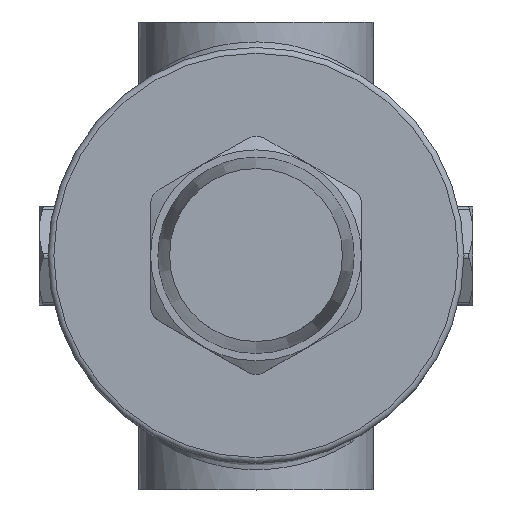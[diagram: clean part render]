
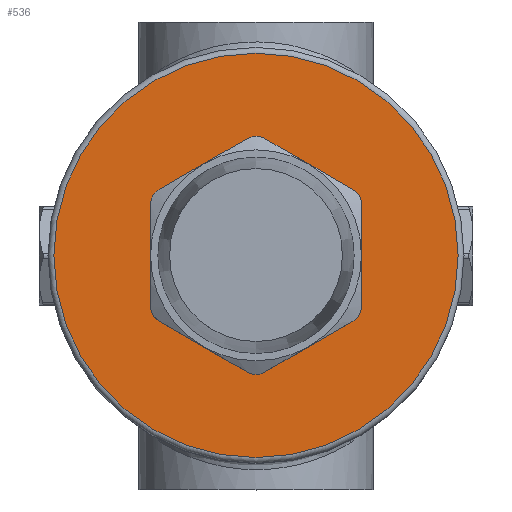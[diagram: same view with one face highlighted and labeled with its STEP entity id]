
A CAD part, top view. The second image highlights one B-rep face of the part: STEP entity #536.
In plain terms, the highlighted planar face has unit normal (0, 0, 1).
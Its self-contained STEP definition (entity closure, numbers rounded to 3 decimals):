
#536=ADVANCED_FACE('',(#4074,#4076),#4078,.T.);
#4074=FACE_BOUND('',#4075,.T.);
#4075=EDGE_LOOP('',(#9354));
#4076=FACE_BOUND('',#4077,.T.);
#4077=EDGE_LOOP('',(#9355,#9356,#9357,#9358,#9359,#9360,#9361,#9362,#9363,#9364,
#9365,#9366));
#4078=PLANE('',#4079);
#4079=AXIS2_PLACEMENT_3D('',#4080,#4081,#4082);
#4080=CARTESIAN_POINT('',(0.,0.,56.8));
#4081=DIRECTION('',(0.,0.,1.));
#4082=DIRECTION('',(0.,1.,0.));
#9354=ORIENTED_EDGE('',*,*,#10836,.T.);
#9355=ORIENTED_EDGE('',*,*,#10911,.F.);
#9356=ORIENTED_EDGE('',*,*,#10912,.F.);
#9357=ORIENTED_EDGE('',*,*,#10913,.F.);
#9358=ORIENTED_EDGE('',*,*,#10914,.F.);
#9359=ORIENTED_EDGE('',*,*,#10915,.F.);
#9360=ORIENTED_EDGE('',*,*,#10916,.F.);
#9361=ORIENTED_EDGE('',*,*,#10917,.F.);
#9362=ORIENTED_EDGE('',*,*,#10918,.F.);
#9363=ORIENTED_EDGE('',*,*,#10919,.F.);
#9364=ORIENTED_EDGE('',*,*,#10920,.F.);
#9365=ORIENTED_EDGE('',*,*,#10921,.F.);
#9366=ORIENTED_EDGE('',*,*,#10922,.F.);
#10836=EDGE_CURVE('',#13091,#13091,#13092,.T.);
#10911=EDGE_CURVE('',#13207,#13208,#13209,.F.);
#10912=EDGE_CURVE('',#13210,#13207,#13211,.T.);
#10913=EDGE_CURVE('',#13212,#13210,#13213,.F.);
#10914=EDGE_CURVE('',#13214,#13212,#13215,.T.);
#10915=EDGE_CURVE('',#13216,#13214,#13217,.F.);
#10916=EDGE_CURVE('',#13218,#13216,#13219,.T.);
#10917=EDGE_CURVE('',#13220,#13218,#13221,.F.);
#10918=EDGE_CURVE('',#13222,#13220,#13223,.T.);
#10919=EDGE_CURVE('',#13224,#13222,#13225,.F.);
#10920=EDGE_CURVE('',#13226,#13224,#13227,.T.);
#10921=EDGE_CURVE('',#13228,#13226,#13229,.F.);
#10922=EDGE_CURVE('',#13208,#13228,#13230,.T.);
#13091=VERTEX_POINT('',#19677);
#13092=CIRCLE('',#19678,34.5);
#13207=VERTEX_POINT('',#20469);
#13208=VERTEX_POINT('',#20470);
#13209=CIRCLE('',#20471,3.);
#13210=VERTEX_POINT('',#20475);
#13211=LINE('',#20476,#20477);
#13212=VERTEX_POINT('',#20479);
#13213=CIRCLE('',#20480,3.);
#13214=VERTEX_POINT('',#20484);
#13215=LINE('',#20485,#20486);
#13216=VERTEX_POINT('',#20488);
#13217=CIRCLE('',#20489,3.);
#13218=VERTEX_POINT('',#20493);
#13219=LINE('',#20494,#20495);
#13220=VERTEX_POINT('',#20497);
#13221=CIRCLE('',#20498,3.);
#13222=VERTEX_POINT('',#20502);
#13223=LINE('',#20503,#20504);
#13224=VERTEX_POINT('',#20506);
#13225=CIRCLE('',#20507,3.);
#13226=VERTEX_POINT('',#20511);
#13227=LINE('',#20512,#20513);
#13228=VERTEX_POINT('',#20515);
#13229=CIRCLE('',#20516,3.);
#13230=LINE('',#20520,#20521);
#19677=CARTESIAN_POINT('',(0.,34.5,56.8));
#19678=AXIS2_PLACEMENT_3D('',#19679,#19680,#19681);
#19679=CARTESIAN_POINT('',(0.,0.,56.8));
#19680=DIRECTION('',(0.,0.,1.));
#19681=DIRECTION('',(0.,1.,0.));
#20469=CARTESIAN_POINT('',(-18.,-8.66,56.8));
#20470=CARTESIAN_POINT('',(-16.5,-11.258,56.8));
#20471=AXIS2_PLACEMENT_3D('',#20472,#20473,#20474);
#20472=CARTESIAN_POINT('',(-15.,-8.66,56.8));
#20473=DIRECTION('',(0.,0.,-1.));
#20474=DIRECTION('',(-0.5,-0.866,0.));
#20475=CARTESIAN_POINT('',(-18.,8.66,56.8));
#20476=CARTESIAN_POINT('',(-18.,8.66,56.8));
#20477=VECTOR('',#20478,1.);
#20478=DIRECTION('',(0.,-1.,0.));
#20479=CARTESIAN_POINT('',(-16.5,11.258,56.8));
#20480=AXIS2_PLACEMENT_3D('',#20481,#20482,#20483);
#20481=CARTESIAN_POINT('',(-15.,8.66,56.8));
#20482=DIRECTION('',(0.,0.,-1.));
#20483=DIRECTION('',(-1.,0.,0.));
#20484=CARTESIAN_POINT('',(-1.5,19.919,56.8));
#20485=CARTESIAN_POINT('',(-1.5,19.919,56.8));
#20486=VECTOR('',#20487,1.);
#20487=DIRECTION('',(-0.866,-0.5,0.));
#20488=CARTESIAN_POINT('',(1.5,19.919,56.8));
#20489=AXIS2_PLACEMENT_3D('',#20490,#20491,#20492);
#20490=CARTESIAN_POINT('',(0.,17.321,56.8));
#20491=DIRECTION('',(0.,0.,-1.));
#20492=DIRECTION('',(-0.5,0.866,0.));
#20493=CARTESIAN_POINT('',(16.5,11.258,56.8));
#20494=CARTESIAN_POINT('',(16.5,11.258,56.8));
#20495=VECTOR('',#20496,1.);
#20496=DIRECTION('',(-0.866,0.5,0.));
#20497=CARTESIAN_POINT('',(18.,8.66,56.8));
#20498=AXIS2_PLACEMENT_3D('',#20499,#20500,#20501);
#20499=CARTESIAN_POINT('',(15.,8.66,56.8));
#20500=DIRECTION('',(0.,0.,-1.));
#20501=DIRECTION('',(0.5,0.866,0.));
#20502=CARTESIAN_POINT('',(18.,-8.66,56.8));
#20503=CARTESIAN_POINT('',(18.,-8.66,56.8));
#20504=VECTOR('',#20505,1.);
#20505=DIRECTION('',(0.,1.,0.));
#20506=CARTESIAN_POINT('',(16.5,-11.258,56.8));
#20507=AXIS2_PLACEMENT_3D('',#20508,#20509,#20510);
#20508=CARTESIAN_POINT('',(15.,-8.66,56.8));
#20509=DIRECTION('',(0.,0.,-1.));
#20510=DIRECTION('',(1.,0.,0.));
#20511=CARTESIAN_POINT('',(1.5,-19.919,56.8));
#20512=CARTESIAN_POINT('',(1.5,-19.919,56.8));
#20513=VECTOR('',#20514,1.);
#20514=DIRECTION('',(0.866,0.5,0.));
#20515=CARTESIAN_POINT('',(-1.5,-19.919,56.8));
#20516=AXIS2_PLACEMENT_3D('',#20517,#20518,#20519);
#20517=CARTESIAN_POINT('',(0.,-17.321,56.8));
#20518=DIRECTION('',(0.,0.,-1.));
#20519=DIRECTION('',(0.5,-0.866,0.));
#20520=CARTESIAN_POINT('',(-16.5,-11.258,56.8));
#20521=VECTOR('',#20522,1.);
#20522=DIRECTION('',(0.866,-0.5,0.));
